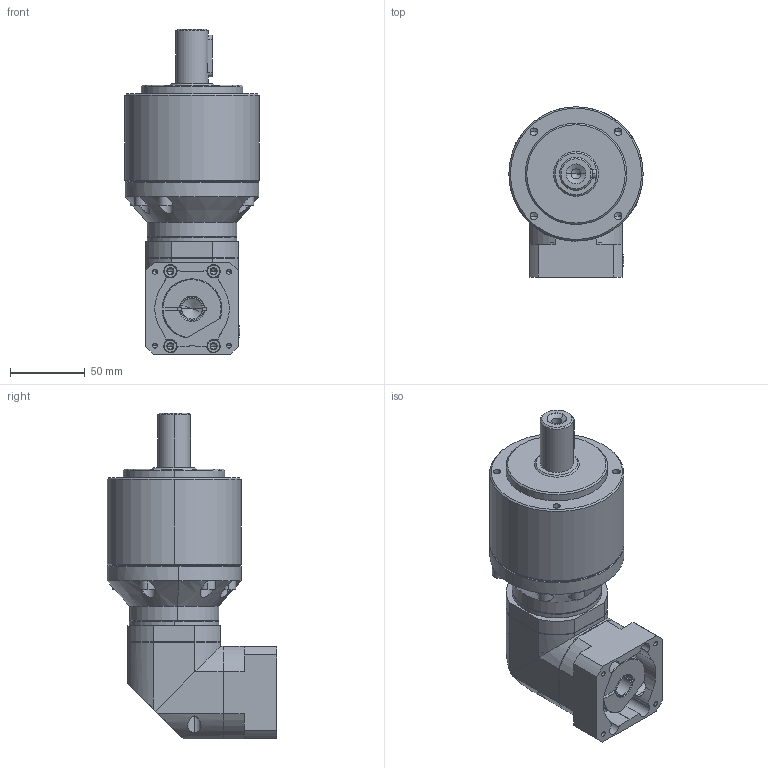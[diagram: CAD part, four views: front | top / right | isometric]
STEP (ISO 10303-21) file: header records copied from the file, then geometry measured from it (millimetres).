
FILE_DESCRIPTION (( 'STEP AP203' ), '1' );
FILE_NAME ('LBER90A-(L2)-S2-P2-5070M4.STEP', '2024-11-16T01:31:29', ( '微软用户' ), ( '微软中国' ), 'SwSTEP 2.0', 'SolidWorks 2022', '' );
FILE_SCHEMA (( 'CONFIG_CONTROL_DESIGN' ));
Length unit declared in the file: millimetre
Products named in the file (1): LBER90A-(L2)-S2-P2-5070M4
Bounding box: 90 x 114 x 218.5 mm (x, y, z)
Volume: 910439.2 mm3; surface area: 123075.1 mm2
Topology: 20 solids, 20 shells, 610 faces, 1380 edges, 827 vertices
Faces by surface type: plane 237, cylinder 184, cone 131, torus 42, bspline 16
Entity records: 18932 total; most frequent: CARTESIAN_POINT 5262, DIRECTION 2949, ORIENTED_EDGE 2700, EDGE_CURVE 1350, AXIS2_PLACEMENT_3D 1162, VERTEX_POINT 827, EDGE_LOOP 689, VECTOR 625
